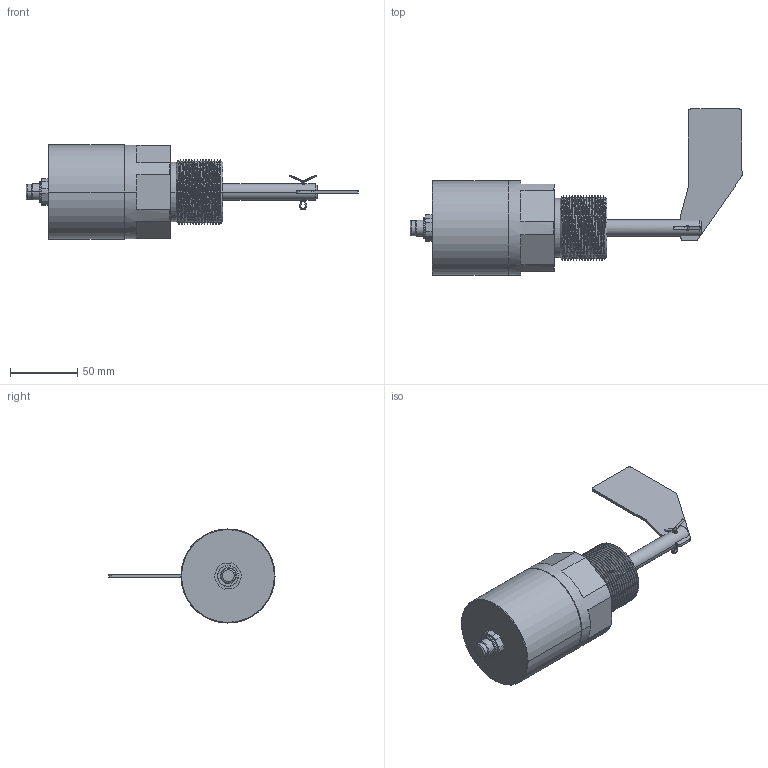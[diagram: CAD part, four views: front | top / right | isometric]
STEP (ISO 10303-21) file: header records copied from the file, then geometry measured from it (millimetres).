
FILE_DESCRIPTION (( 'STEP AP214' ), '1' );
FILE_NAME ('MBA888_24V (1).STEP', '2021-02-21T14:27:47', ( '' ), ( '' ), 'SwSTEP 2.0', 'SolidWorks 2020', '' );
FILE_SCHEMA (( 'AUTOMOTIVE_DESIGN' ));
Length unit declared in the file: millimetre
Products named in the file (9): MBA888_24V (1); MBA888_24V_P1.STP; MBA888_24V_P4.STP; Øïèëüêà (2); MBA888_24V_P2.STP; MBA888_24V_P5.STP; Ëîïàñòü; MBA888_24V_P3.STP; MBA888_24V (1).STP
Assembly tree (8 placements, depth 3):
  MBA888_24V (1)
    MBA888_24V (1).STP
      MBA888_24V_P1.STP
      MBA888_24V_P2.STP
      MBA888_24V_P3.STP
      MBA888_24V_P4.STP
      MBA888_24V_P5.STP
    Øïèëüêà (2)
    Ëîïàñòü
Bounding box: 247 x 123.5 x 70 mm (x, y, z)
Volume: 235446.3 mm3; surface area: 81185.2 mm2
Topology: 7 solids, 7 shells, 291 faces, 699 edges, 440 vertices
Faces by surface type: cylinder 140, plane 84, cone 37, torus 27, bspline 3
Entity records: 17253 total; most frequent: CARTESIAN_POINT 10110, DIRECTION 1502, ORIENTED_EDGE 1390, EDGE_CURVE 695, AXIS2_PLACEMENT_3D 606, VERTEX_POINT 440, EDGE_LOOP 325, CIRCLE 306
